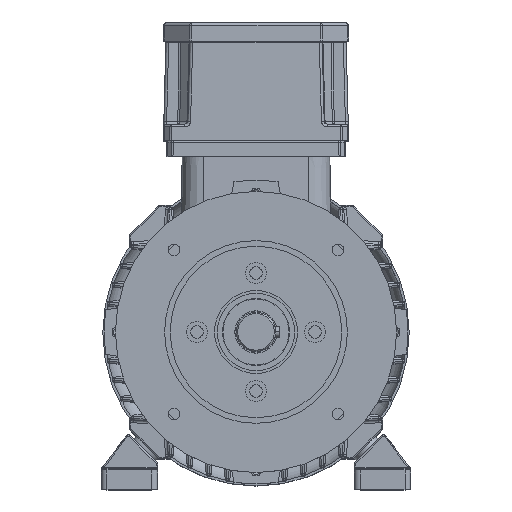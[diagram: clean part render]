
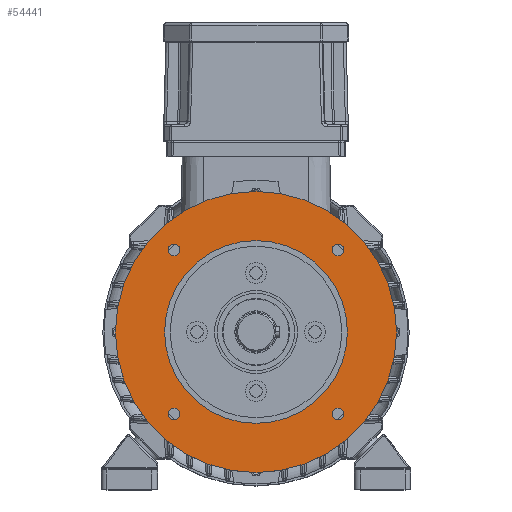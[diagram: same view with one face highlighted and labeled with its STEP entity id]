
A CAD part, top view. The second image highlights one B-rep face of the part: STEP entity #54441.
In plain terms, the highlighted planar face has unit normal (0, 0, 1).
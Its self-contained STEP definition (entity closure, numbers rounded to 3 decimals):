
#1090 = AXIS2_PLACEMENT_3D ( 'NONE', #53589, #114487, #1392 ) ;
#1392 = DIRECTION ( 'NONE',  ( 1., 0., 0. ) ) ;
#2149 = FACE_BOUND ( 'NONE', #50155, .T. ) ;
#3075 = CARTESIAN_POINT ( 'NONE',  ( 0., 65., 165. ) ) ;
#3821 = CARTESIAN_POINT ( 'NONE',  ( -54.086, 58.336, 165. ) ) ;
#4867 = DIRECTION ( 'NONE',  ( 0., 0., 1. ) ) ;
#5923 = CARTESIAN_POINT ( 'NONE',  ( 54.086, 58.336, 165. ) ) ;
#12299 = AXIS2_PLACEMENT_3D ( 'NONE', #15530, #115865, #92005 ) ;
#13634 = CARTESIAN_POINT ( 'NONE',  ( -65., 0., 165. ) ) ;
#15530 = CARTESIAN_POINT ( 'NONE',  ( 0., 0., 165. ) ) ;
#15803 = CARTESIAN_POINT ( 'NONE',  ( -100., 0., 165. ) ) ;
#17636 = CARTESIAN_POINT ( 'NONE',  ( -58.336, 58.336, 165. ) ) ;
#17878 = CIRCLE ( 'NONE', #57734, 4.25 ) ;
#19100 = DIRECTION ( 'NONE',  ( 1., 0., 0. ) ) ;
#19616 = CIRCLE ( 'NONE', #132606, 4.25 ) ;
#20369 = DIRECTION ( 'NONE',  ( 1., 0., 0. ) ) ;
#23067 = VERTEX_POINT ( 'NONE', #23762 ) ;
#23293 = ORIENTED_EDGE ( 'NONE', *, *, #28125, .F. ) ;
#23500 = ORIENTED_EDGE ( 'NONE', *, *, #129331, .F. ) ;
#23762 = CARTESIAN_POINT ( 'NONE',  ( 65., 0., 165. ) ) ;
#24120 = EDGE_LOOP ( 'NONE', ( #29726, #150689 ) ) ;
#24151 = CARTESIAN_POINT ( 'NONE',  ( 0., 0., 165. ) ) ;
#26416 = DIRECTION ( 'NONE',  ( 0., 0., -1. ) ) ;
#26967 = PLANE ( 'NONE',  #36905 ) ;
#26992 = CARTESIAN_POINT ( 'NONE',  ( -54.086, -58.336, 165. ) ) ;
#28125 = EDGE_CURVE ( 'NONE', #124004, #50699, #157838, .T. ) ;
#29011 = AXIS2_PLACEMENT_3D ( 'NONE', #73921, #122191, #134867 ) ;
#29726 = ORIENTED_EDGE ( 'NONE', *, *, #40759, .T. ) ;
#31997 = CIRCLE ( 'NONE', #50535, 4.25 ) ;
#32245 = CARTESIAN_POINT ( 'NONE',  ( 58.336, -58.336, 165. ) ) ;
#33070 = DIRECTION ( 'NONE',  ( 1., 0., 0. ) ) ;
#35082 = AXIS2_PLACEMENT_3D ( 'NONE', #113052, #51672, #39703 ) ;
#36905 = AXIS2_PLACEMENT_3D ( 'NONE', #3075, #26416, #142720 ) ;
#39703 = DIRECTION ( 'NONE',  ( 1., 0., 0. ) ) ;
#39924 = FACE_BOUND ( 'NONE', #69236, .T. ) ;
#40759 = EDGE_CURVE ( 'NONE', #94917, #83108, #157052, .T. ) ;
#40943 = ORIENTED_EDGE ( 'NONE', *, *, #136383, .F. ) ;
#41261 = CIRCLE ( 'NONE', #117432, 100. ) ;
#41831 = CARTESIAN_POINT ( 'NONE',  ( 62.586, -58.336, 165. ) ) ;
#47122 = EDGE_CURVE ( 'NONE', #163340, #58548, #129553, .T. ) ;
#48339 = ORIENTED_EDGE ( 'NONE', *, *, #122952, .F. ) ;
#48819 = DIRECTION ( 'NONE',  ( 1., 0., 0. ) ) ;
#49280 = ORIENTED_EDGE ( 'NONE', *, *, #47122, .F. ) ;
#50155 = EDGE_LOOP ( 'NONE', ( #40943, #48339 ) ) ;
#50535 = AXIS2_PLACEMENT_3D ( 'NONE', #95108, #121729, #33070 ) ;
#50699 = VERTEX_POINT ( 'NONE', #5923 ) ;
#51672 = DIRECTION ( 'NONE',  ( 0., 0., 1. ) ) ;
#51909 = FACE_BOUND ( 'NONE', #66044, .T. ) ;
#53589 = CARTESIAN_POINT ( 'NONE',  ( 0., 0., 165. ) ) ;
#54441 = ADVANCED_FACE ( 'NONE', ( #107337, #51909, #39924, #136935, #2149, #59769 ), #26967, .F. ) ;
#56554 = CARTESIAN_POINT ( 'NONE',  ( -58.336, 58.336, 165. ) ) ;
#57734 = AXIS2_PLACEMENT_3D ( 'NONE', #32245, #146801, #59904 ) ;
#58220 = DIRECTION ( 'NONE',  ( 0., 0., 1. ) ) ;
#58548 = VERTEX_POINT ( 'NONE', #75940 ) ;
#59769 = FACE_OUTER_BOUND ( 'NONE', #24120, .T. ) ;
#59904 = DIRECTION ( 'NONE',  ( 1., 0., 0. ) ) ;
#60153 = VERTEX_POINT ( 'NONE', #26992 ) ;
#66044 = EDGE_LOOP ( 'NONE', ( #68397, #23500 ) ) ;
#68397 = ORIENTED_EDGE ( 'NONE', *, *, #147468, .F. ) ;
#69236 = EDGE_LOOP ( 'NONE', ( #140274, #87238 ) ) ;
#70683 = DIRECTION ( 'NONE',  ( 0., 0., 1. ) ) ;
#71201 = DIRECTION ( 'NONE',  ( 0., 0., 1. ) ) ;
#73528 = AXIS2_PLACEMENT_3D ( 'NONE', #133805, #70683, #19100 ) ;
#73921 = CARTESIAN_POINT ( 'NONE',  ( 0., 0., 165. ) ) ;
#75940 = CARTESIAN_POINT ( 'NONE',  ( -62.586, 58.336, 165. ) ) ;
#83108 = VERTEX_POINT ( 'NONE', #15803 ) ;
#83205 = EDGE_CURVE ( 'NONE', #114816, #113737, #149350, .T. ) ;
#84979 = EDGE_CURVE ( 'NONE', #83108, #94917, #41261, .T. ) ;
#85684 = ORIENTED_EDGE ( 'NONE', *, *, #96653, .F. ) ;
#87238 = ORIENTED_EDGE ( 'NONE', *, *, #83205, .F. ) ;
#90598 = CIRCLE ( 'NONE', #110153, 4.25 ) ;
#92005 = DIRECTION ( 'NONE',  ( 1., 0., 0. ) ) ;
#93240 = CARTESIAN_POINT ( 'NONE',  ( 100., 0., 165. ) ) ;
#93550 = DIRECTION ( 'NONE',  ( 1., 0., 0. ) ) ;
#94917 = VERTEX_POINT ( 'NONE', #93240 ) ;
#95108 = CARTESIAN_POINT ( 'NONE',  ( 58.336, 58.336, 165. ) ) ;
#96582 = DIRECTION ( 'NONE',  ( 1., 0., 0. ) ) ;
#96653 = EDGE_CURVE ( 'NONE', #50699, #124004, #31997, .T. ) ;
#98054 = EDGE_CURVE ( 'NONE', #58548, #163340, #90598, .T. ) ;
#100560 = DIRECTION ( 'NONE',  ( 1., 0., 0. ) ) ;
#107337 = FACE_BOUND ( 'NONE', #108928, .T. ) ;
#108928 = EDGE_LOOP ( 'NONE', ( #49280, #148113 ) ) ;
#109060 = DIRECTION ( 'NONE',  ( 0., 0., 1. ) ) ;
#110153 = AXIS2_PLACEMENT_3D ( 'NONE', #17636, #4867, #93550 ) ;
#113052 = CARTESIAN_POINT ( 'NONE',  ( -58.336, -58.336, 165. ) ) ;
#113737 = VERTEX_POINT ( 'NONE', #41831 ) ;
#114337 = CARTESIAN_POINT ( 'NONE',  ( 62.586, 58.336, 165. ) ) ;
#114487 = DIRECTION ( 'NONE',  ( 0., 0., 1. ) ) ;
#114816 = VERTEX_POINT ( 'NONE', #160754 ) ;
#115865 = DIRECTION ( 'NONE',  ( 0., 0., 1. ) ) ;
#117432 = AXIS2_PLACEMENT_3D ( 'NONE', #24151, #137133, #100560 ) ;
#121729 = DIRECTION ( 'NONE',  ( 0., 0., 1. ) ) ;
#122191 = DIRECTION ( 'NONE',  ( 0., 0., 1. ) ) ;
#122952 = EDGE_CURVE ( 'NONE', #146001, #23067, #158322, .T. ) ;
#124004 = VERTEX_POINT ( 'NONE', #114337 ) ;
#129331 = EDGE_CURVE ( 'NONE', #163506, #60153, #136494, .T. ) ;
#129553 = CIRCLE ( 'NONE', #152369, 4.25 ) ;
#132606 = AXIS2_PLACEMENT_3D ( 'NONE', #158959, #58220, #48819 ) ;
#133805 = CARTESIAN_POINT ( 'NONE',  ( 58.336, -58.336, 165. ) ) ;
#134867 = DIRECTION ( 'NONE',  ( 1., 0., 0. ) ) ;
#136383 = EDGE_CURVE ( 'NONE', #23067, #146001, #158539, .T. ) ;
#136494 = CIRCLE ( 'NONE', #35082, 4.25 ) ;
#136935 = FACE_BOUND ( 'NONE', #145786, .T. ) ;
#137133 = DIRECTION ( 'NONE',  ( 0., 0., 1. ) ) ;
#137898 = EDGE_CURVE ( 'NONE', #113737, #114816, #17878, .T. ) ;
#140274 = ORIENTED_EDGE ( 'NONE', *, *, #137898, .F. ) ;
#142720 = DIRECTION ( 'NONE',  ( -1., 0., 0. ) ) ;
#145786 = EDGE_LOOP ( 'NONE', ( #23293, #85684 ) ) ;
#146001 = VERTEX_POINT ( 'NONE', #13634 ) ;
#146801 = DIRECTION ( 'NONE',  ( 0., 0., 1. ) ) ;
#147468 = EDGE_CURVE ( 'NONE', #60153, #163506, #19616, .T. ) ;
#148113 = ORIENTED_EDGE ( 'NONE', *, *, #98054, .F. ) ;
#148588 = CARTESIAN_POINT ( 'NONE',  ( 58.336, 58.336, 165. ) ) ;
#149350 = CIRCLE ( 'NONE', #73528, 4.25 ) ;
#150689 = ORIENTED_EDGE ( 'NONE', *, *, #84979, .T. ) ;
#152369 = AXIS2_PLACEMENT_3D ( 'NONE', #56554, #109060, #20369 ) ;
#157052 = CIRCLE ( 'NONE', #12299, 100. ) ;
#157838 = CIRCLE ( 'NONE', #159634, 4.25 ) ;
#158322 = CIRCLE ( 'NONE', #29011, 65. ) ;
#158539 = CIRCLE ( 'NONE', #1090, 65. ) ;
#158919 = CARTESIAN_POINT ( 'NONE',  ( -62.586, -58.336, 165. ) ) ;
#158959 = CARTESIAN_POINT ( 'NONE',  ( -58.336, -58.336, 165. ) ) ;
#159634 = AXIS2_PLACEMENT_3D ( 'NONE', #148588, #71201, #96582 ) ;
#160754 = CARTESIAN_POINT ( 'NONE',  ( 54.086, -58.336, 165. ) ) ;
#163340 = VERTEX_POINT ( 'NONE', #3821 ) ;
#163506 = VERTEX_POINT ( 'NONE', #158919 ) ;
